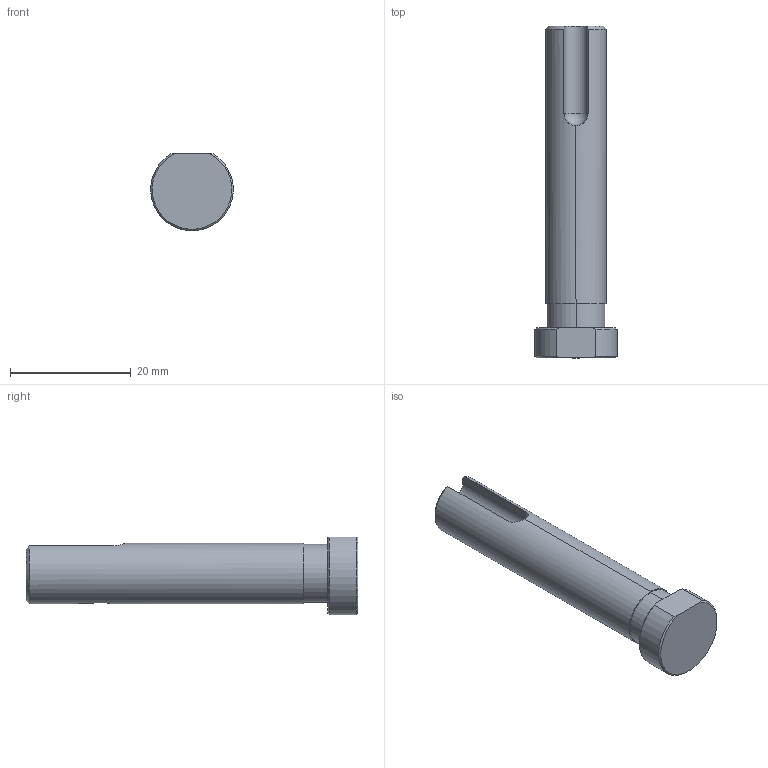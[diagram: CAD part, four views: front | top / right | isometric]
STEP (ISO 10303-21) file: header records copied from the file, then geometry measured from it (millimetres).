
FILE_DESCRIPTION (( 'STEP AP214' ), '1' );
FILE_NAME ('EGCP (P10.50.1).STEP', '2019-11-11T13:13:52', ( '' ), ( '' ), 'SwSTEP 2.0', 'SolidWorks 2014', '' );
FILE_SCHEMA (( 'AUTOMOTIVE_DESIGN' ));
Length unit declared in the file: millimetre
Products named in the file (1): EGCP (P10.50.1)
Bounding box: 13.66 x 55 x 12.85 mm (x, y, z)
Volume: 4261.4 mm3; surface area: 2217.5 mm2
Topology: 1 solids, 1 shells, 28 faces, 74 edges, 49 vertices
Faces by surface type: cylinder 9, plane 8, cone 6, bspline 4, sphere 1
Entity records: 2062 total; most frequent: CARTESIAN_POINT 1387, ORIENTED_EDGE 144, DIRECTION 118, EDGE_CURVE 72, AXIS2_PLACEMENT_3D 49, VERTEX_POINT 48, EDGE_LOOP 30, ADVANCED_FACE 28
